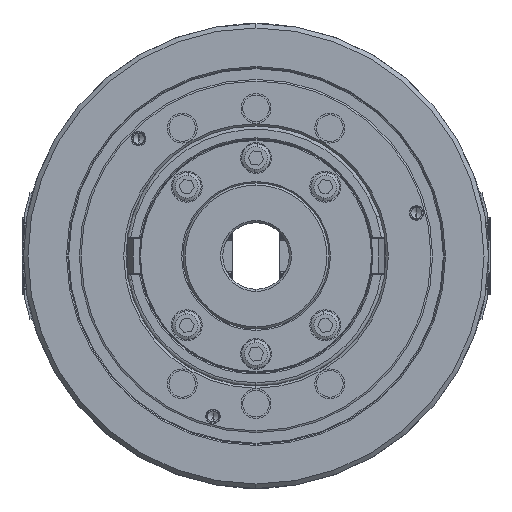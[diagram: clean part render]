
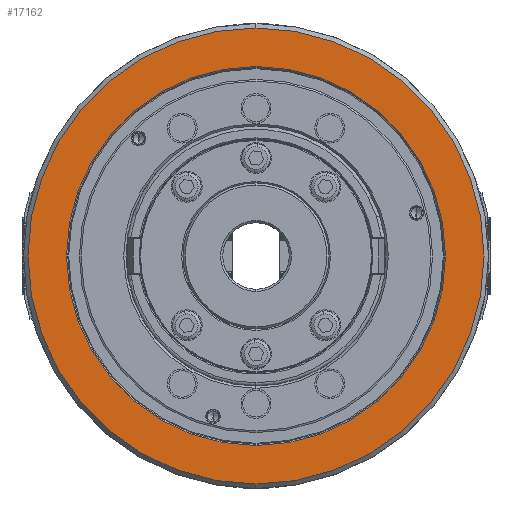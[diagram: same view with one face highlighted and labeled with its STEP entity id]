
A CAD part, left-side view. The second image highlights one B-rep face of the part: STEP entity #17162.
In plain terms, the highlighted planar face has unit normal (-1, 0, 0).
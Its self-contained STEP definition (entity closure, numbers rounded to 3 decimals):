
#1168 = DIRECTION ( 'NONE',  ( 0., 0., 1. ) ) ;
#2221 = CARTESIAN_POINT ( 'NONE',  ( -91., 0., 0. ) ) ;
#6284 = ORIENTED_EDGE ( 'NONE', *, *, #6607, .T. ) ;
#6607 = EDGE_CURVE ( 'NONE', #67501, #35138, #53434, .T. ) ;
#7460 = CIRCLE ( 'NONE', #15087, 103. ) ;
#7552 = DIRECTION ( 'NONE',  ( 0., 0., -1. ) ) ;
#7928 = CARTESIAN_POINT ( 'NONE',  ( -91., 0., 0. ) ) ;
#13282 = DIRECTION ( 'NONE',  ( 0., 0., -1. ) ) ;
#13916 = AXIS2_PLACEMENT_3D ( 'NONE', #47349, #68590, #36931 ) ;
#14920 = AXIS2_PLACEMENT_3D ( 'NONE', #7928, #44870, #13282 ) ;
#15087 = AXIS2_PLACEMENT_3D ( 'NONE', #60171, #28523, #65498 ) ;
#17162 = ADVANCED_FACE ( 'NONE', ( #21261, #47637 ), #63269, .T. ) ;
#21261 = FACE_OUTER_BOUND ( 'NONE', #68355, .T. ) ;
#22351 = AXIS2_PLACEMENT_3D ( 'NONE', #64460, #32808, #1168 ) ;
#22507 = CIRCLE ( 'NONE', #22351, 103. ) ;
#27817 = EDGE_LOOP ( 'NONE', ( #46383, #6284 ) ) ;
#28463 = CARTESIAN_POINT ( 'NONE',  ( -91., 0., 103. ) ) ;
#28523 = DIRECTION ( 'NONE',  ( -1., 0., 0. ) ) ;
#31431 = EDGE_CURVE ( 'NONE', #64542, #51295, #7460, .T. ) ;
#32808 = DIRECTION ( 'NONE',  ( -1., 0., 0. ) ) ;
#35138 = VERTEX_POINT ( 'NONE', #44129 ) ;
#36931 = DIRECTION ( 'NONE',  ( 0., 0., 1. ) ) ;
#39166 = DIRECTION ( 'NONE',  ( 1., 0., 0. ) ) ;
#42332 = AXIS2_PLACEMENT_3D ( 'NONE', #2221, #39166, #7552 ) ;
#42780 = ORIENTED_EDGE ( 'NONE', *, *, #47848, .T. ) ;
#44129 = CARTESIAN_POINT ( 'NONE',  ( -91., 0., 85.6 ) ) ;
#44870 = DIRECTION ( 'NONE',  ( 1., 0., 0. ) ) ;
#46383 = ORIENTED_EDGE ( 'NONE', *, *, #58693, .T. ) ;
#47349 = CARTESIAN_POINT ( 'NONE',  ( -91., 105., 0. ) ) ;
#47637 = FACE_BOUND ( 'NONE', #27817, .T. ) ;
#47848 = EDGE_CURVE ( 'NONE', #51295, #64542, #22507, .T. ) ;
#51295 = VERTEX_POINT ( 'NONE', #28463 ) ;
#53434 = CIRCLE ( 'NONE', #42332, 85.6 ) ;
#54335 = CARTESIAN_POINT ( 'NONE',  ( -91., 0., -103. ) ) ;
#55544 = ORIENTED_EDGE ( 'NONE', *, *, #31431, .T. ) ;
#58693 = EDGE_CURVE ( 'NONE', #35138, #67501, #60253, .T. ) ;
#60171 = CARTESIAN_POINT ( 'NONE',  ( -91., 0., 0. ) ) ;
#60253 = CIRCLE ( 'NONE', #14920, 85.6 ) ;
#63269 = PLANE ( 'NONE',  #13916 ) ;
#63605 = CARTESIAN_POINT ( 'NONE',  ( -91., 0., -85.6 ) ) ;
#64460 = CARTESIAN_POINT ( 'NONE',  ( -91., 0., 0. ) ) ;
#64542 = VERTEX_POINT ( 'NONE', #54335 ) ;
#65498 = DIRECTION ( 'NONE',  ( 0., 0., 1. ) ) ;
#67501 = VERTEX_POINT ( 'NONE', #63605 ) ;
#68355 = EDGE_LOOP ( 'NONE', ( #55544, #42780 ) ) ;
#68590 = DIRECTION ( 'NONE',  ( -1., 0., 0. ) ) ;
